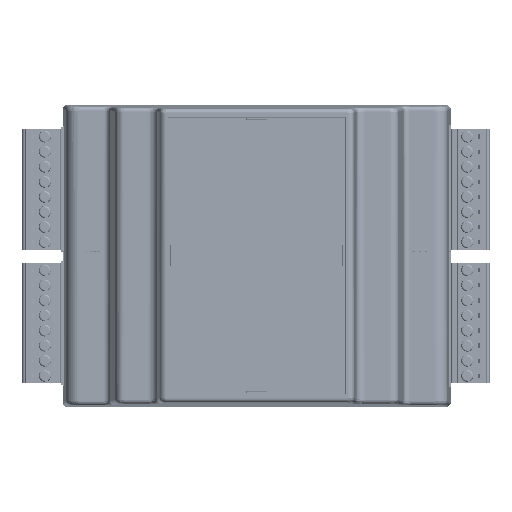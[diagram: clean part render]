
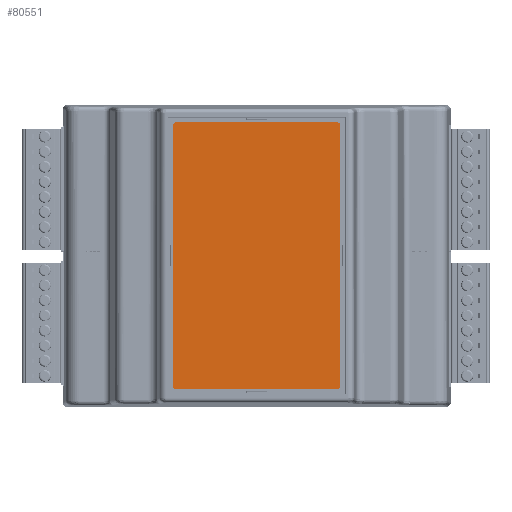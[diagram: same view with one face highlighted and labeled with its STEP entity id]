
A CAD part, top view. The second image highlights one B-rep face of the part: STEP entity #80551.
In plain terms, the highlighted planar face has unit normal (0, 0, 1).
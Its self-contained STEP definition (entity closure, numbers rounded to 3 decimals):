
#2426=CIRCLE('',#85692,0.5);
#2428=CIRCLE('',#85696,0.5);
#2429=CIRCLE('',#85697,0.5);
#2430=CIRCLE('',#85698,0.5);
#9779=PLANE('',#85695);
#13497=FACE_OUTER_BOUND('',#17888,.T.);
#17888=EDGE_LOOP('',(#65251,#65252,#65253,#65254,#65255,#65256,#65257,#65258));
#24741=LINE('',#125328,#32717);
#24744=LINE('',#125334,#32720);
#24745=LINE('',#125338,#32721);
#24746=LINE('',#125342,#32722);
#32717=VECTOR('',#96778,10.);
#32720=VECTOR('',#96783,10.);
#32721=VECTOR('',#96786,10.);
#32722=VECTOR('',#96789,10.);
#40917=VERTEX_POINT('',#125318);
#40918=VERTEX_POINT('',#125319);
#40921=VERTEX_POINT('',#125327);
#40923=VERTEX_POINT('',#125333);
#40924=VERTEX_POINT('',#125335);
#40925=VERTEX_POINT('',#125337);
#40926=VERTEX_POINT('',#125339);
#40927=VERTEX_POINT('',#125341);
#49900=EDGE_CURVE('',#40917,#40918,#2426,.T.);
#49904=EDGE_CURVE('',#40921,#40918,#24741,.T.);
#49907=EDGE_CURVE('',#40917,#40923,#24744,.T.);
#49908=EDGE_CURVE('',#40924,#40923,#2428,.T.);
#49909=EDGE_CURVE('',#40924,#40925,#24745,.T.);
#49910=EDGE_CURVE('',#40926,#40925,#2429,.T.);
#49911=EDGE_CURVE('',#40926,#40927,#24746,.T.);
#49912=EDGE_CURVE('',#40921,#40927,#2430,.T.);
#65251=ORIENTED_EDGE('',*,*,#49900,.F.);
#65252=ORIENTED_EDGE('',*,*,#49907,.T.);
#65253=ORIENTED_EDGE('',*,*,#49908,.F.);
#65254=ORIENTED_EDGE('',*,*,#49909,.T.);
#65255=ORIENTED_EDGE('',*,*,#49910,.F.);
#65256=ORIENTED_EDGE('',*,*,#49911,.T.);
#65257=ORIENTED_EDGE('',*,*,#49912,.F.);
#65258=ORIENTED_EDGE('',*,*,#49904,.T.);
#80551=ADVANCED_FACE('',(#13497),#9779,.T.);
#85692=AXIS2_PLACEMENT_3D('',#125320,#96770,#96771);
#85695=AXIS2_PLACEMENT_3D('',#125332,#96781,#96782);
#85696=AXIS2_PLACEMENT_3D('',#125336,#96784,#96785);
#85697=AXIS2_PLACEMENT_3D('',#125340,#96787,#96788);
#85698=AXIS2_PLACEMENT_3D('',#125343,#96790,#96791);
#96770=DIRECTION('center_axis',(0.,0.,-1.));
#96771=DIRECTION('ref_axis',(-0.707,0.707,0.));
#96778=DIRECTION('',(-1.,0.,0.));
#96781=DIRECTION('center_axis',(0.,0.,1.));
#96782=DIRECTION('ref_axis',(1.,0.,0.));
#96783=DIRECTION('',(0.,-1.,0.));
#96784=DIRECTION('center_axis',(0.,0.,-1.));
#96785=DIRECTION('ref_axis',(-0.707,-0.707,0.));
#96786=DIRECTION('',(1.,0.,0.));
#96787=DIRECTION('center_axis',(0.,0.,-1.));
#96788=DIRECTION('ref_axis',(0.707,-0.707,0.));
#96789=DIRECTION('',(0.,1.,0.));
#96790=DIRECTION('center_axis',(0.,0.,-1.));
#96791=DIRECTION('ref_axis',(0.707,0.707,0.));
#125318=CARTESIAN_POINT('',(29.661,68.325,0.4));
#125319=CARTESIAN_POINT('',(30.161,68.825,0.4));
#125320=CARTESIAN_POINT('Origin',(30.161,68.325,0.4));
#125327=CARTESIAN_POINT('',(67.926,68.825,0.4));
#125328=CARTESIAN_POINT('',(68.426,68.825,0.4));
#125332=CARTESIAN_POINT('Origin',(49.043,37.943,0.4));
#125333=CARTESIAN_POINT('',(29.661,7.56,0.4));
#125334=CARTESIAN_POINT('',(29.661,68.825,0.4));
#125335=CARTESIAN_POINT('',(30.161,7.06,0.4));
#125336=CARTESIAN_POINT('Origin',(30.161,7.56,0.4));
#125337=CARTESIAN_POINT('',(67.926,7.06,0.4));
#125338=CARTESIAN_POINT('',(29.661,7.06,0.4));
#125339=CARTESIAN_POINT('',(68.426,7.56,0.4));
#125340=CARTESIAN_POINT('Origin',(67.926,7.56,0.4));
#125341=CARTESIAN_POINT('',(68.426,68.325,0.4));
#125342=CARTESIAN_POINT('',(68.426,7.06,0.4));
#125343=CARTESIAN_POINT('Origin',(67.926,68.325,0.4));
